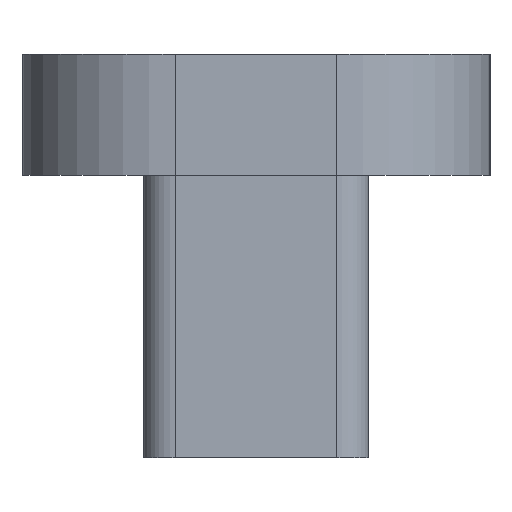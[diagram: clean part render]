
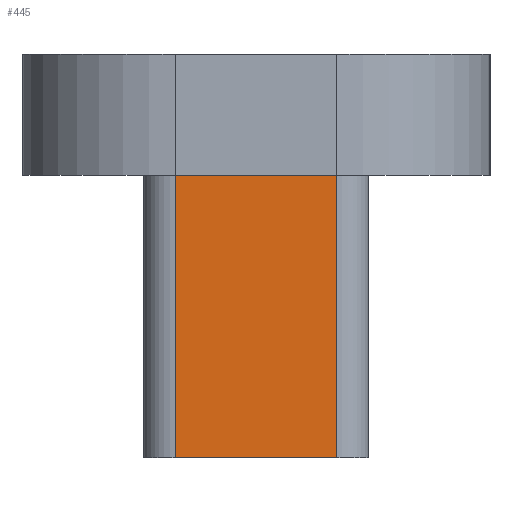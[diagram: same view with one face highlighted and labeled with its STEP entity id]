
A CAD part, left-side view. The second image highlights one B-rep face of the part: STEP entity #445.
In plain terms, the highlighted planar face has unit normal (-1, 0, 0).
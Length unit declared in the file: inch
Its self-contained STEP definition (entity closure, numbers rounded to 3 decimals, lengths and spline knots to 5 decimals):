
#42 = CARTESIAN_POINT ( 'NONE',  ( 0.22941, -2.175, -0.075 ) ) ;
#170 = DIRECTION ( 'NONE',  ( 0., 1., 0. ) ) ;
#203 = EDGE_LOOP ( 'NONE', ( #779, #1095, #1193, #259 ) ) ;
#234 = DIRECTION ( 'NONE',  ( 0., 1., 0. ) ) ;
#257 = CARTESIAN_POINT ( 'NONE',  ( 0.22941, -2.175, -0.71174 ) ) ;
#259 = ORIENTED_EDGE ( 'NONE', *, *, #356, .F. ) ;
#306 = CARTESIAN_POINT ( 'NONE',  ( 0.22941, -2.175, -0.075 ) ) ;
#312 = CARTESIAN_POINT ( 'NONE',  ( 0.22941, -2.075, -0.075 ) ) ;
#317 = EDGE_CURVE ( 'NONE', #1066, #1118, #389, .T. ) ;
#337 = EDGE_CURVE ( 'NONE', #1170, #1066, #1027, .T. ) ;
#356 = EDGE_CURVE ( 'NONE', #949, #1118, #365, .T. ) ;
#365 = LINE ( 'NONE', #1107, #376 ) ;
#376 = VECTOR ( 'NONE', #990, 39.37008 ) ;
#389 = LINE ( 'NONE', #42, #1069 ) ;
#445 = ADVANCED_FACE ( 'NONE', ( #1248 ), #528, .F. ) ;
#448 = CARTESIAN_POINT ( 'NONE',  ( 0.22941, -2.175, -0.25 ) ) ;
#520 = CARTESIAN_POINT ( 'NONE',  ( 0.22941, -2.175, -0.71174 ) ) ;
#528 = PLANE ( 'NONE',  #785 ) ;
#657 = VECTOR ( 'NONE', #1096, 39.37008 ) ;
#673 = CARTESIAN_POINT ( 'NONE',  ( 0.22941, -2.075, -0.25 ) ) ;
#680 = CARTESIAN_POINT ( 'NONE',  ( 0.22941, -2.175, -0.25 ) ) ;
#715 = VECTOR ( 'NONE', #170, 39.37008 ) ;
#779 = ORIENTED_EDGE ( 'NONE', *, *, #801, .F. ) ;
#785 = AXIS2_PLACEMENT_3D ( 'NONE', #257, #828, #929 ) ;
#801 = EDGE_CURVE ( 'NONE', #1170, #949, #899, .T. ) ;
#828 = DIRECTION ( 'NONE',  ( 1., 0., 0. ) ) ;
#899 = LINE ( 'NONE', #448, #715 ) ;
#929 = DIRECTION ( 'NONE',  ( 0., 0., -1. ) ) ;
#949 = VERTEX_POINT ( 'NONE', #673 ) ;
#990 = DIRECTION ( 'NONE',  ( 0., 0., 1. ) ) ;
#1027 = LINE ( 'NONE', #520, #657 ) ;
#1066 = VERTEX_POINT ( 'NONE', #306 ) ;
#1069 = VECTOR ( 'NONE', #234, 39.37008 ) ;
#1095 = ORIENTED_EDGE ( 'NONE', *, *, #337, .T. ) ;
#1096 = DIRECTION ( 'NONE',  ( 0., 0., 1. ) ) ;
#1107 = CARTESIAN_POINT ( 'NONE',  ( 0.22941, -2.075, -0.71174 ) ) ;
#1118 = VERTEX_POINT ( 'NONE', #312 ) ;
#1170 = VERTEX_POINT ( 'NONE', #680 ) ;
#1193 = ORIENTED_EDGE ( 'NONE', *, *, #317, .T. ) ;
#1248 = FACE_OUTER_BOUND ( 'NONE', #203, .T. ) ;
